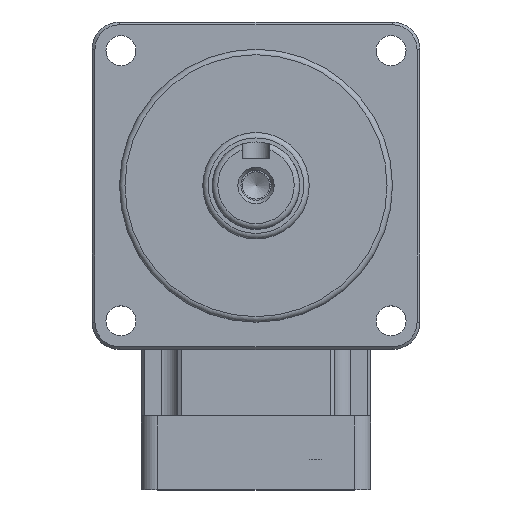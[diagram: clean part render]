
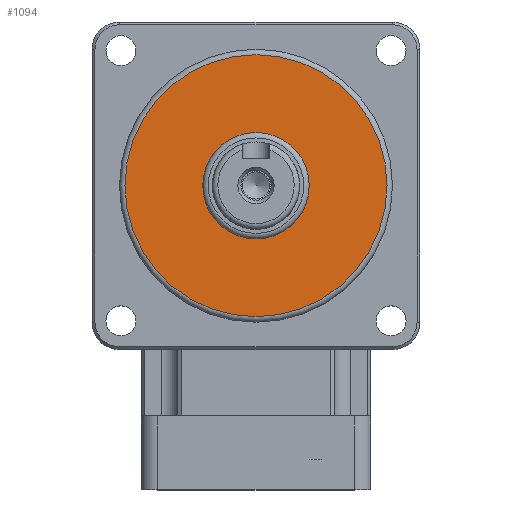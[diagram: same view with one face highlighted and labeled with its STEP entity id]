
A CAD part, top view. The second image highlights one B-rep face of the part: STEP entity #1094.
In plain terms, the highlighted planar face has unit normal (0, 0, 1).
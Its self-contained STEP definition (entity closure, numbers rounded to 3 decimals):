
#444=CARTESIAN_POINT('',(-9.75,0.,-1.0));
#445=VERTEX_POINT('',#444);
#446=CARTESIAN_POINT('',(0.0,0.0,-1.0));
#447=DIRECTION('',(0.0,0.0,1.0));
#448=DIRECTION('',(1.0,0.0,0.0));
#449=AXIS2_PLACEMENT_3D('',#446,#447,#448);
#450=CIRCLE('',#449,9.75);
#451=EDGE_CURVE('',#445,#445,#450,.T.);
#1071=CARTESIAN_POINT('',(-24.0,0.,-1.0));
#1072=VERTEX_POINT('',#1071);
#1073=CARTESIAN_POINT('',(0.0,0.0,-1.0));
#1074=DIRECTION('',(0.0,0.0,-1.0));
#1075=DIRECTION('',(1.0,0.0,0.0));
#1076=AXIS2_PLACEMENT_3D('',#1073,#1074,#1075);
#1077=CIRCLE('',#1076,24.0);
#1078=EDGE_CURVE('',#1072,#1072,#1077,.T.);
#1083=CARTESIAN_POINT('',(0.0,0.0,-1.0));
#1084=DIRECTION('',(0.0,0.0,1.0));
#1085=DIRECTION('',(1.0,0.0,0.0));
#1086=AXIS2_PLACEMENT_3D('',#1083,#1084,#1085);
#1087=PLANE('',#1086);
#1088=ORIENTED_EDGE('',*,*,#1078,.F.);
#1089=EDGE_LOOP('',(#1088));
#1090=FACE_OUTER_BOUND('',#1089,.T.);
#1091=ORIENTED_EDGE('',*,*,#451,.F.);
#1092=EDGE_LOOP('',(#1091));
#1093=FACE_BOUND('',#1092,.T.);
#1094=ADVANCED_FACE('',(#1090,#1093),#1087,.T.);
